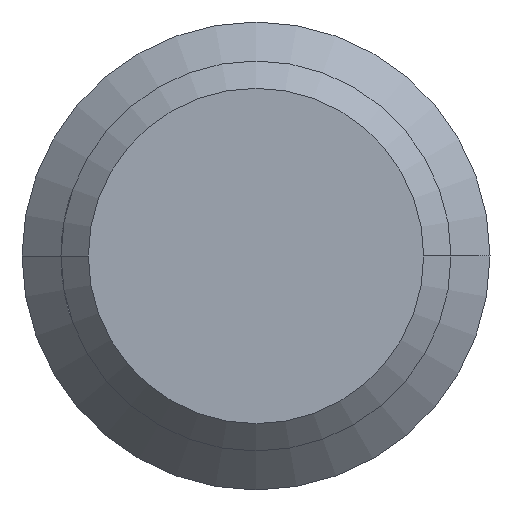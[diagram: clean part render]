
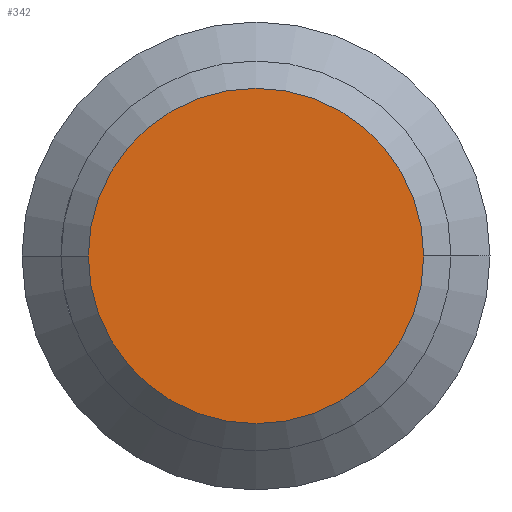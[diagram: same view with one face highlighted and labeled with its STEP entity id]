
A CAD part, left-side view. The second image highlights one B-rep face of the part: STEP entity #342.
In plain terms, the highlighted planar face has unit normal (-1, 0, 0).
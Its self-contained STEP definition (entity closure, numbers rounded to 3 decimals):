
#268 = EDGE_CURVE ( 'NONE', #397, #458, #660, .T. ) ;
#323 = EDGE_LOOP ( 'NONE', ( #401, #667 ) ) ;
#342 = ADVANCED_FACE ( 'NONE', ( #517 ), #518, .T. ) ;
#397 = VERTEX_POINT ( 'NONE', #454 ) ;
#401 = ORIENTED_EDGE ( 'NONE', *, *, #268, .T. ) ;
#415 = CIRCLE ( 'NONE', #416, 4.3 ) ;
#416 = AXIS2_PLACEMENT_3D ( 'NONE', #417, #418, #419 ) ;
#417 = CARTESIAN_POINT ( 'NONE',  ( -58., 0., 0. ) ) ;
#418 = DIRECTION ( 'NONE',  ( -1., 0., 0. ) ) ;
#419 = DIRECTION ( 'NONE',  ( 0., -1., 0. ) ) ;
#454 = CARTESIAN_POINT ( 'NONE',  ( -58., 4.3, 0. ) ) ;
#458 = VERTEX_POINT ( 'NONE', #609 ) ;
#517 = FACE_OUTER_BOUND ( 'NONE', #323, .T. ) ;
#518 = PLANE ( 'NONE',  #519 ) ;
#519 = AXIS2_PLACEMENT_3D ( 'NONE', #520, #521, #522 ) ;
#520 = CARTESIAN_POINT ( 'NONE',  ( -58., 0., 0. ) ) ;
#521 = DIRECTION ( 'NONE',  ( -1., 0., 0. ) ) ;
#522 = DIRECTION ( 'NONE',  ( 0., -1., 0. ) ) ;
#609 = CARTESIAN_POINT ( 'NONE',  ( -58., -4.3, 0. ) ) ;
#660 = CIRCLE ( 'NONE', #661, 4.3 ) ;
#661 = AXIS2_PLACEMENT_3D ( 'NONE', #662, #663, #664 ) ;
#662 = CARTESIAN_POINT ( 'NONE',  ( -58., 0., 0. ) ) ;
#663 = DIRECTION ( 'NONE',  ( -1., 0., 0. ) ) ;
#664 = DIRECTION ( 'NONE',  ( 0., -1., 0. ) ) ;
#667 = ORIENTED_EDGE ( 'NONE', *, *, #668, .T. ) ;
#668 = EDGE_CURVE ( 'NONE', #458, #397, #415, .T. ) ;
